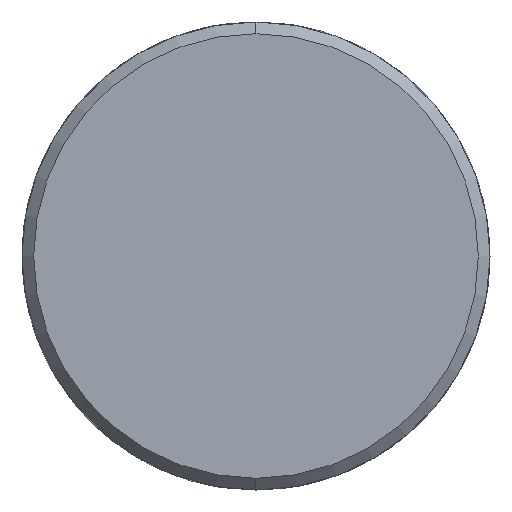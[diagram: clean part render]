
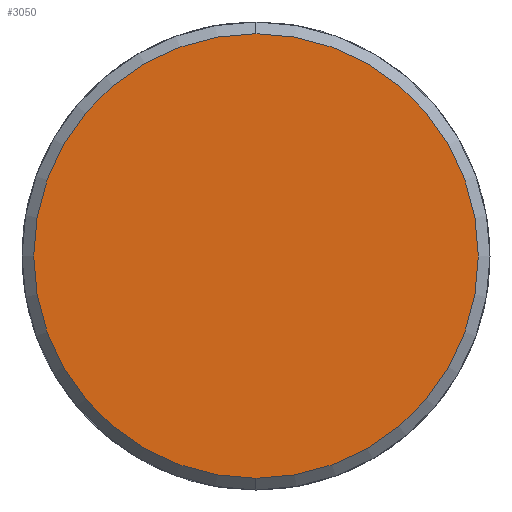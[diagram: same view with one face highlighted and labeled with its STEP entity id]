
A CAD part, left-side view. The second image highlights one B-rep face of the part: STEP entity #3050.
In plain terms, the highlighted planar face has unit normal (-1, 0, 0).
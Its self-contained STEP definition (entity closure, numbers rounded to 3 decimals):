
#90 = CARTESIAN_POINT ( 'NONE',  ( 0., 0., 9.5 ) ) ;
#326 = AXIS2_PLACEMENT_3D ( 'NONE', #3988, #3980, #3977 ) ;
#1172 = EDGE_CURVE ( 'NONE', #3635, #5071, #2048, .T. ) ;
#1353 = PLANE ( 'NONE',  #4524 ) ;
#1667 = CIRCLE ( 'NONE', #5275, 9.5 ) ;
#1935 = DIRECTION ( 'NONE',  ( -1., 0., 0. ) ) ;
#2048 = CIRCLE ( 'NONE', #326, 9.5 ) ;
#2246 = EDGE_CURVE ( 'NONE', #5071, #3635, #1667, .T. ) ;
#2479 = DIRECTION ( 'NONE',  ( 0., 0., -1. ) ) ;
#2489 = DIRECTION ( 'NONE',  ( 1., 0., 0. ) ) ;
#2500 = CARTESIAN_POINT ( 'NONE',  ( 0., 0., 0. ) ) ;
#3050 = ADVANCED_FACE ( 'NONE', ( #5576 ), #1353, .T. ) ;
#3635 = VERTEX_POINT ( 'NONE', #4510 ) ;
#3977 = DIRECTION ( 'NONE',  ( 0., 0., -1. ) ) ;
#3980 = DIRECTION ( 'NONE',  ( 1., 0., 0. ) ) ;
#3988 = CARTESIAN_POINT ( 'NONE',  ( 0., 0., 0. ) ) ;
#4004 = EDGE_LOOP ( 'NONE', ( #4723, #7067 ) ) ;
#4510 = CARTESIAN_POINT ( 'NONE',  ( 0., 0., -9.5 ) ) ;
#4524 = AXIS2_PLACEMENT_3D ( 'NONE', #5391, #1935, #5972 ) ;
#4723 = ORIENTED_EDGE ( 'NONE', *, *, #1172, .F. ) ;
#5071 = VERTEX_POINT ( 'NONE', #90 ) ;
#5275 = AXIS2_PLACEMENT_3D ( 'NONE', #2500, #2489, #2479 ) ;
#5391 = CARTESIAN_POINT ( 'NONE',  ( 0., 0., 0. ) ) ;
#5576 = FACE_OUTER_BOUND ( 'NONE', #4004, .T. ) ;
#5972 = DIRECTION ( 'NONE',  ( 0., 0., 1. ) ) ;
#7067 = ORIENTED_EDGE ( 'NONE', *, *, #2246, .F. ) ;
